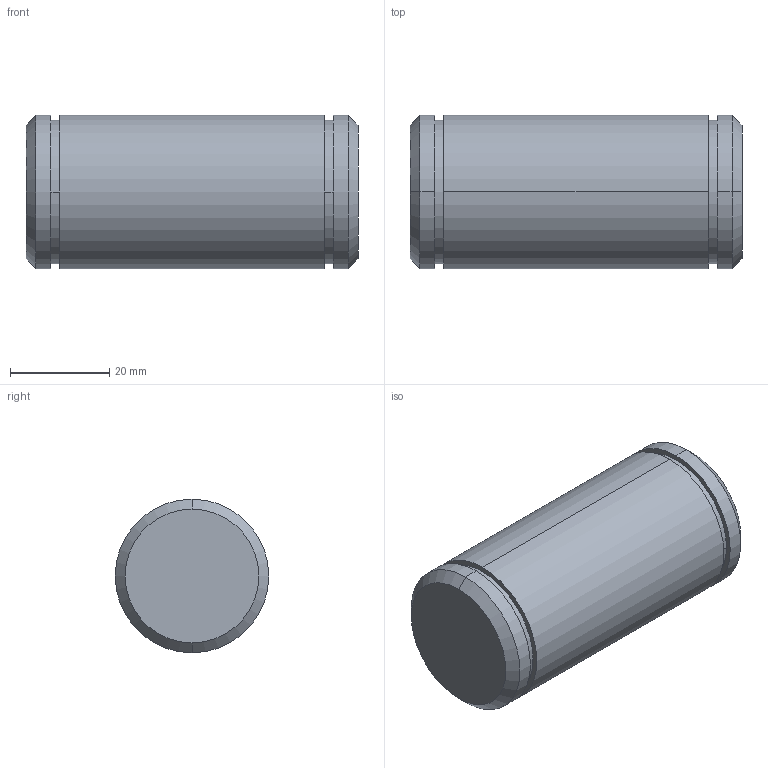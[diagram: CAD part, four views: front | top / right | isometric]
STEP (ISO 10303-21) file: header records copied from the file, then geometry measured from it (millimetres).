
FILE_DESCRIPTION (( 'STEP AP203' ), '1' );
FILE_NAME ('Bolzen Sicherungsring B M30.STEP', '2018-02-22T05:38:49', ( 'install' ), ( 'Hewlett-Packard Company' ), 'SwSTEP 2.0', 'SolidWorks 2017', '' );
FILE_SCHEMA (( 'CONFIG_CONTROL_DESIGN' ));
Length unit declared in the file: millimetre
Products named in the file (1): Bolzen Sicherungsring B M30
Bounding box: 67 x 31 x 31 mm (x, y, z)
Volume: 49841 mm3; surface area: 8167.4 mm2
Topology: 1 solids, 1 shells, 20 faces, 38 edges, 24 vertices
Faces by surface type: cylinder 10, plane 6, cone 4
Entity records: 591 total; most frequent: DIRECTION 104, CARTESIAN_POINT 83, ORIENTED_EDGE 76, AXIS2_PLACEMENT_3D 45, EDGE_CURVE 38, EDGE_LOOP 24, CIRCLE 24, VERTEX_POINT 24
